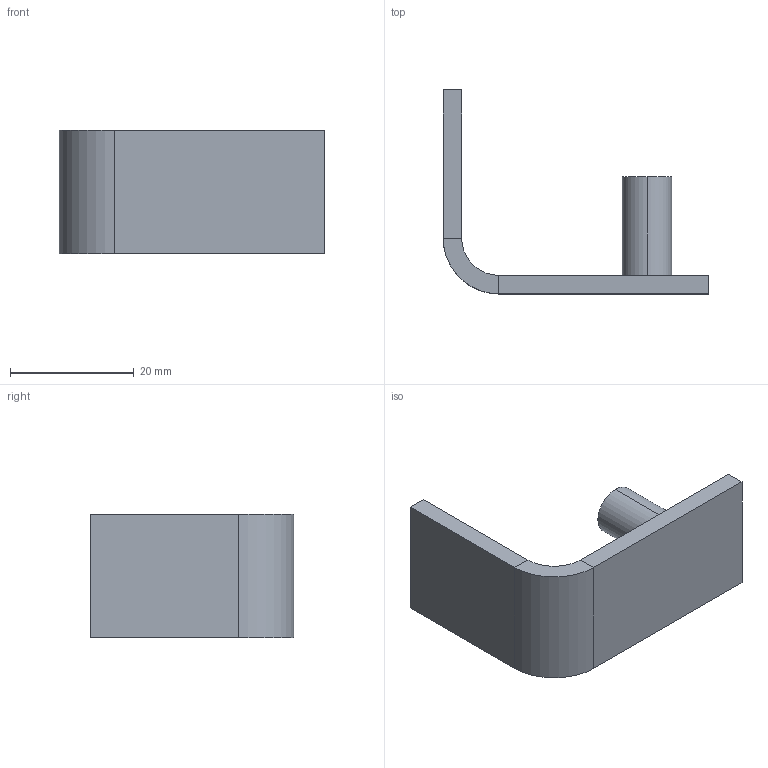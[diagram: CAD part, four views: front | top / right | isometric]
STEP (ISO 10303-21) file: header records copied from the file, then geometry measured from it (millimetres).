
FILE_DESCRIPTION (( 'STEP AP203' ), '1' );
FILE_NAME ('PIASTRINA_ANGOLARE_30X40X20_SPESSORE_3_CON_PERNO_8X16.STEP', '2019-02-20T19:28:49', ( '' ), ( '' ), 'SwSTEP 2.0', 'SolidWorks 2019', '' );
FILE_SCHEMA (( 'CONFIG_CONTROL_DESIGN' ));
Length unit declared in the file: millimetre
Products named in the file (1): PIASTRINA_ANGOLARE_30X40X20_SPESSORE_3_CON_PERNO_8X16
Bounding box: 43 x 33 x 20 mm (x, y, z)
Volume: 4991.1 mm3; surface area: 3732 mm2
Topology: 1 solids, 1 shells, 17 faces, 34 edges, 20 vertices
Faces by surface type: plane 13, cylinder 4
Entity records: 509 total; most frequent: DIRECTION 78, CARTESIAN_POINT 72, ORIENTED_EDGE 68, EDGE_CURVE 34, VECTOR 26, LINE 26, AXIS2_PLACEMENT_3D 26, VERTEX_POINT 20
